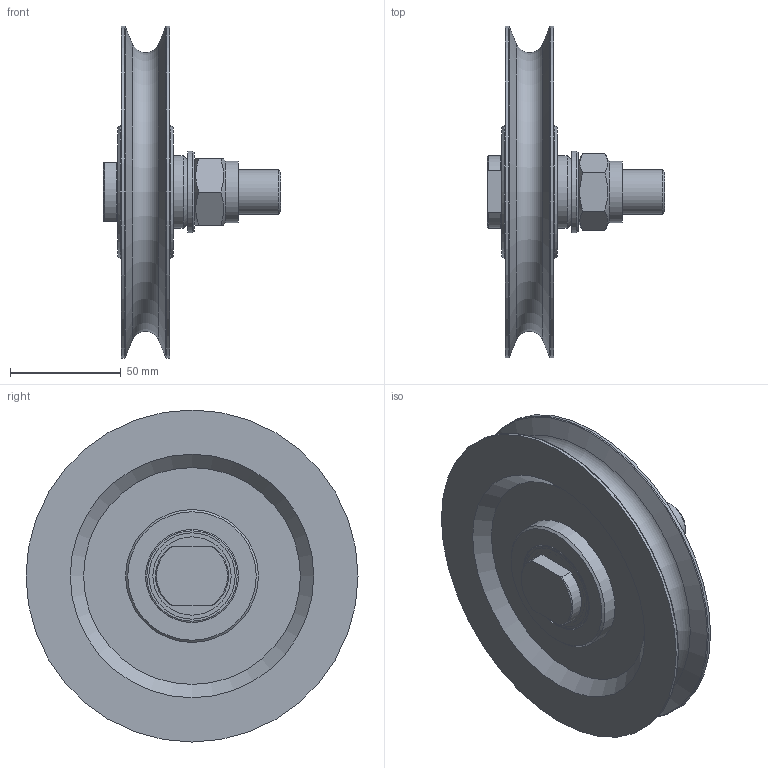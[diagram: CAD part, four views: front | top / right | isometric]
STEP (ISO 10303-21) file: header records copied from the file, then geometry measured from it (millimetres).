
FILE_DESCRIPTION(/* description */ ('Seilrolle ø150 feststehende Achse'),/* implementation_level */ '2;1');
FILE_NAME(/* name */ 'Z:\Workspace\03 Seilrollen\1.408 K Seilrollen feststehende Achse Kugellager\1.408.05 K Seilrolle ø150 feststehende Achse KL\1.408.05 K Seilrolle ø150 feststehende Achse.stp',/* time_stamp */ '2021-10-11T09:19:58+02:00',/* author */ ('cad-user'),/* organization */ (''),/* preprocessor_version */ 'ST-DEVELOPER v18',/* originating_system */ 'Autodesk Inventor 2020',/* authorisation */ '');
FILE_SCHEMA (('AUTOMOTIVE_DESIGN { 1 0 10303 214 3 1 1 }'));
Length unit declared in the file: millimetre
Products named in the file (13): 1.408.05 K Seilrolle ø150 feststehende Achse; 1.402.05 Seilrolle ø150 Kugellager komplett; 1.402.05 Seilrolle ø150 Kugellager; DIN625 - 6004-2RS - P63; din625_-_6004-2rs_-_p63_0_05; din625_-_6004-2rs_-_p63_0_04; din625_-_6004-2rs_-_p63_0_03; din625_-_6004-2rs_-_p63_0_02; din625_-_6004-2rs_-_p63_0_01; 1.408.05.02 Scheibe; 1.408.05.01 Schraube; DIN 125-1 - B 21; DIN 985 - M20
Assembly tree (13 placements, depth 4):
  1.408.05 K Seilrolle ø150 feststehende Achse
    1.402.05 Seilrolle ø150 Kugellager komplett
      1.402.05 Seilrolle ø150 Kugellager
      DIN625 - 6004-2RS - P63  x2
        din625_-_6004-2rs_-_p63_0_05
        din625_-_6004-2rs_-_p63_0_04
        din625_-_6004-2rs_-_p63_0_03
        din625_-_6004-2rs_-_p63_0_02
        din625_-_6004-2rs_-_p63_0_01
    1.408.05.02 Scheibe
    1.408.05.01 Schraube
    DIN 125-1 - B 21
    DIN 985 - M20
Bounding box: 80 x 150 x 150 mm (x, y, z)
Volume: 285292.4 mm3; surface area: 91708 mm2
Topology: 15 solids, 15 shells, 157 faces, 423 edges, 307 vertices
Faces by surface type: plane 49, cylinder 44, torus 31, cone 17, sphere 16
Full cylindrical faces by diameter (mm): 17.294 x1, 20 x3, 21 x2, 24.4 x8, 26.6 x4, 27.7 x1, 33 x1, 35.4 x4, 36 x1, 37 x1, 39 x8, 42 x4, 60 x2, 150 x2
Entity records: 4440 total; most frequent: CARTESIAN_POINT 1193, DIRECTION 649, ORIENTED_EDGE 538, AXIS2_PLACEMENT_3D 297, EDGE_CURVE 269, VERTEX_POINT 205, CIRCLE 162, EDGE_LOOP 152
